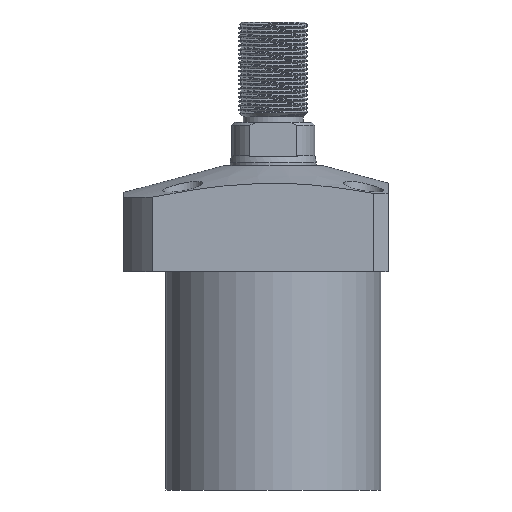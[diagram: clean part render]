
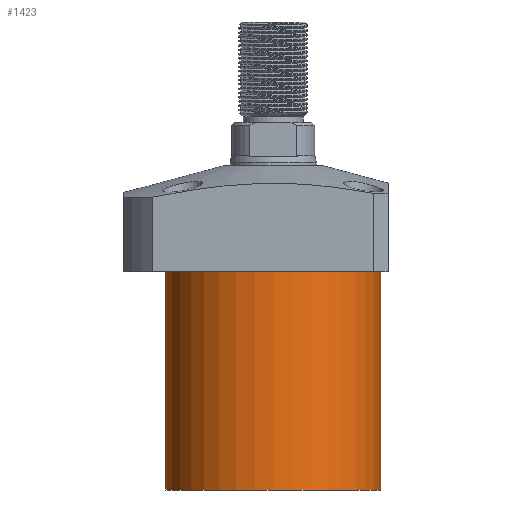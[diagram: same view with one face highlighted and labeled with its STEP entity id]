
A CAD part, front view. The second image highlights one B-rep face of the part: STEP entity #1423.
In plain terms, the highlighted cylindrical face has radius 37.5 mm (diameter 75 mm), a partial arc.
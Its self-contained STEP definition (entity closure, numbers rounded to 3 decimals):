
#405 = DIRECTION ( 'NONE',  ( 0., 0., 1. ) ) ;
#453 = EDGE_CURVE ( 'NONE', #7145, #1855, #1344, .T. ) ;
#610 = EDGE_CURVE ( 'NONE', #7145, #1405, #7950, .T. ) ;
#1318 = CARTESIAN_POINT ( 'NONE',  ( 0., 0., -18.5 ) ) ;
#1344 = CIRCLE ( 'NONE', #4835, 37.5 ) ;
#1405 = VERTEX_POINT ( 'NONE', #6026 ) ;
#1423 = ADVANCED_FACE ( 'NONE', ( #7987 ), #3325, .T. ) ;
#1576 = CARTESIAN_POINT ( 'NONE',  ( 37.5, 0., -94.5 ) ) ;
#1717 = DIRECTION ( 'NONE',  ( 0., 0., 1. ) ) ;
#1855 = VERTEX_POINT ( 'NONE', #3958 ) ;
#1954 = ORIENTED_EDGE ( 'NONE', *, *, #7454, .T. ) ;
#2073 = DIRECTION ( 'NONE',  ( 0., 0., -1. ) ) ;
#2383 = VECTOR ( 'NONE', #1717, 1000. ) ;
#2963 = EDGE_CURVE ( 'NONE', #1855, #5377, #7512, .T. ) ;
#3193 = CARTESIAN_POINT ( 'NONE',  ( 0., 0., -94.5 ) ) ;
#3202 = DIRECTION ( 'NONE',  ( 0., 0., -1. ) ) ;
#3325 = CYLINDRICAL_SURFACE ( 'NONE', #4194, 37.5 ) ;
#3632 = ORIENTED_EDGE ( 'NONE', *, *, #2963, .F. ) ;
#3830 = DIRECTION ( 'NONE',  ( -1., 0., 0. ) ) ;
#3958 = CARTESIAN_POINT ( 'NONE',  ( -37.5, 0., -94.5 ) ) ;
#4029 = CARTESIAN_POINT ( 'NONE',  ( 37.5, 0., -94.5 ) ) ;
#4194 = AXIS2_PLACEMENT_3D ( 'NONE', #7801, #405, #5331 ) ;
#4199 = CIRCLE ( 'NONE', #7570, 37.5 ) ;
#4835 = AXIS2_PLACEMENT_3D ( 'NONE', #3193, #2073, #3830 ) ;
#5204 = ORIENTED_EDGE ( 'NONE', *, *, #610, .T. ) ;
#5331 = DIRECTION ( 'NONE',  ( 1., 0., 0. ) ) ;
#5377 = VERTEX_POINT ( 'NONE', #7461 ) ;
#5699 = VECTOR ( 'NONE', #7529, 1000. ) ;
#6026 = CARTESIAN_POINT ( 'NONE',  ( 37.5, 0., -18.5 ) ) ;
#6273 = DIRECTION ( 'NONE',  ( 1., 0., 0. ) ) ;
#7145 = VERTEX_POINT ( 'NONE', #1576 ) ;
#7197 = EDGE_LOOP ( 'NONE', ( #3632, #7608, #5204, #1954 ) ) ;
#7377 = CARTESIAN_POINT ( 'NONE',  ( -37.5, 0., -94.5 ) ) ;
#7454 = EDGE_CURVE ( 'NONE', #1405, #5377, #4199, .T. ) ;
#7461 = CARTESIAN_POINT ( 'NONE',  ( -37.5, 0., -18.5 ) ) ;
#7512 = LINE ( 'NONE', #7377, #2383 ) ;
#7529 = DIRECTION ( 'NONE',  ( 0., 0., 1. ) ) ;
#7570 = AXIS2_PLACEMENT_3D ( 'NONE', #1318, #3202, #6273 ) ;
#7608 = ORIENTED_EDGE ( 'NONE', *, *, #453, .F. ) ;
#7801 = CARTESIAN_POINT ( 'NONE',  ( 0., 0., -94.5 ) ) ;
#7950 = LINE ( 'NONE', #4029, #5699 ) ;
#7987 = FACE_OUTER_BOUND ( 'NONE', #7197, .T. ) ;
